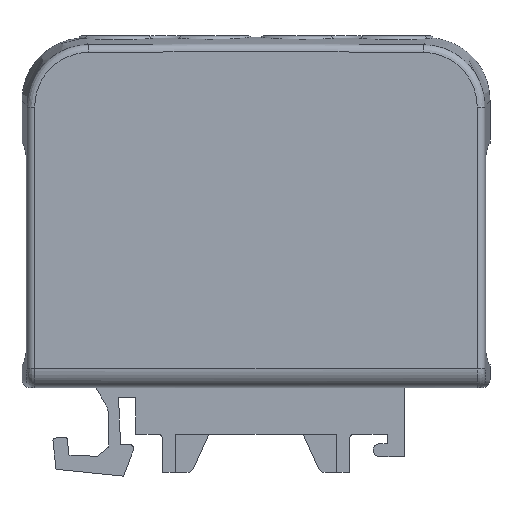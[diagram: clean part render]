
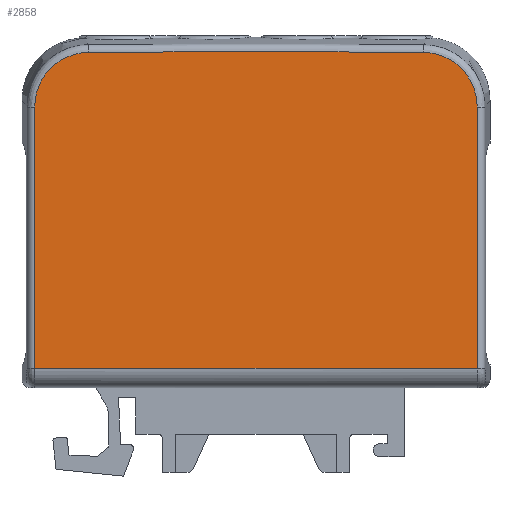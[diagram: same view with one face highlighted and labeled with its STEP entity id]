
A CAD part, front view. The second image highlights one B-rep face of the part: STEP entity #2858.
In plain terms, the highlighted planar face has unit normal (0, -1, 0).
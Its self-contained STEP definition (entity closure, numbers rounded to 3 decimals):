
#51=B_SPLINE_CURVE_WITH_KNOTS('',3,(#4796,#4797,#4798,#4799,#4800,#4801),
 .UNSPECIFIED.,.F.,.F.,(4,1,1,4),(0.,0.005,0.008,
0.011),.UNSPECIFIED.);
#69=B_SPLINE_CURVE_WITH_KNOTS('',3,(#5174,#5175,#5176,#5177,#5178,#5179),
 .UNSPECIFIED.,.F.,.F.,(4,1,1,4),(0.,0.005,
0.008,0.011),.UNSPECIFIED.);
#330=LINE('',#4805,#578);
#342=LINE('',#5188,#590);
#343=LINE('',#5190,#591);
#578=VECTOR('',#3694,1000.);
#590=VECTOR('',#3764,1000.);
#591=VECTOR('',#3765,1000.);
#1326=ORIENTED_EDGE('',*,*,#1831,.T.);
#1327=ORIENTED_EDGE('',*,*,#1833,.T.);
#1328=ORIENTED_EDGE('',*,*,#1834,.F.);
#1329=ORIENTED_EDGE('',*,*,#1784,.T.);
#1330=ORIENTED_EDGE('',*,*,#1782,.T.);
#1331=ORIENTED_EDGE('',*,*,#1780,.T.);
#1780=EDGE_CURVE('',#2099,#2101,#2222,.T.);
#1782=EDGE_CURVE('',#2102,#2099,#51,.T.);
#1784=EDGE_CURVE('',#2103,#2102,#330,.F.);
#1831=EDGE_CURVE('',#2101,#2128,#69,.T.);
#1833=EDGE_CURVE('',#2128,#2129,#342,.T.);
#1834=EDGE_CURVE('',#2103,#2129,#343,.T.);
#2099=VERTEX_POINT('',#4767);
#2101=VERTEX_POINT('',#4771);
#2102=VERTEX_POINT('',#4795);
#2103=VERTEX_POINT('',#4804);
#2128=VERTEX_POINT('',#5173);
#2129=VERTEX_POINT('',#5189);
#2222=CIRCLE('',#3068,2498.13);
#2403=EDGE_LOOP('',(#1326,#1327,#1328,#1329,#1330,#1331));
#2592=FACE_BOUND('',#2403,.T.);
#2712=PLANE('',#3100);
#2858=ADVANCED_FACE('',(#2592),#2712,.T.);
#3068=AXIS2_PLACEMENT_3D('',#4772,#3686,#3687);
#3100=AXIS2_PLACEMENT_3D('',#5187,#3762,#3763);
#3686=DIRECTION('',(0.,-1.,0.));
#3687=DIRECTION('',(0.,0.,-1.));
#3694=DIRECTION('',(0.,0.,-1.));
#3762=DIRECTION('',(0.,-1.,0.));
#3763=DIRECTION('',(0.,0.,1.));
#3764=DIRECTION('',(0.,0.,-1.));
#3765=DIRECTION('',(-1.,0.,0.));
#4767=CARTESIAN_POINT('',(21.512,-11.6,20.537));
#4771=CARTESIAN_POINT('',(-21.512,-11.6,20.537));
#4772=CARTESIAN_POINT('',(0.,-11.6,-2477.5));
#4795=CARTESIAN_POINT('',(28.409,-11.6,13.53));
#4796=CARTESIAN_POINT('',(28.409,-11.6,13.53));
#4797=CARTESIAN_POINT('',(28.409,-11.6,15.364));
#4798=CARTESIAN_POINT('',(27.304,-11.6,18.064));
#4799=CARTESIAN_POINT('',(24.232,-11.6,20.152));
#4800=CARTESIAN_POINT('',(22.429,-11.6,20.529));
#4801=CARTESIAN_POINT('',(21.512,-11.6,20.537));
#4804=CARTESIAN_POINT('',(28.409,-11.6,-20.));
#4805=CARTESIAN_POINT('',(28.409,-11.6,0.));
#5173=CARTESIAN_POINT('',(-28.409,-11.6,13.53));
#5174=CARTESIAN_POINT('',(-21.512,-11.6,20.537));
#5175=CARTESIAN_POINT('',(-23.347,-11.6,20.521));
#5176=CARTESIAN_POINT('',(-26.029,-11.6,19.365));
#5177=CARTESIAN_POINT('',(-28.056,-11.6,16.253));
#5178=CARTESIAN_POINT('',(-28.409,-11.6,14.447));
#5179=CARTESIAN_POINT('',(-28.409,-11.6,13.53));
#5187=CARTESIAN_POINT('',(0.,-11.6,0.));
#5188=CARTESIAN_POINT('',(-28.409,-11.6,0.));
#5189=CARTESIAN_POINT('',(-28.409,-11.6,-20.));
#5190=CARTESIAN_POINT('',(-29.35,-11.6,-20.));
